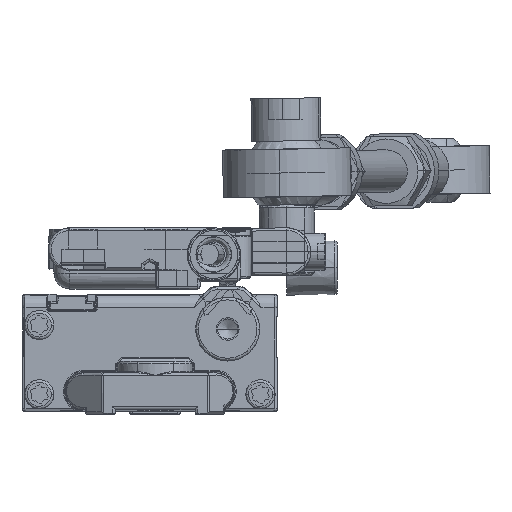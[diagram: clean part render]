
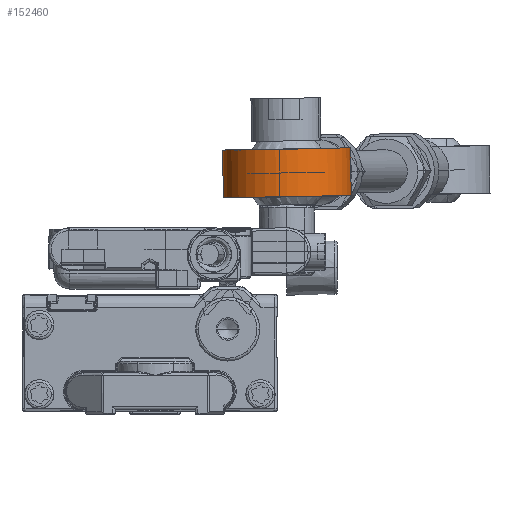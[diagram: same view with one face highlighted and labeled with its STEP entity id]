
A CAD part, left-side view. The second image highlights one B-rep face of the part: STEP entity #152460.
In plain terms, the highlighted cylindrical face has radius 12 mm (diameter 24 mm), a partial arc.
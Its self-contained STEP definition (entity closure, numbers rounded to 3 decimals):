
#151400=CARTESIAN_POINT('',(-150.,-3.,0.));
#151410=DIRECTION('',(0.,-1.,0.));
#151420=DIRECTION('',(0.,0.,1.));
#151430=AXIS2_PLACEMENT_3D('',#151400,#151410,#151420);
#151440=CYLINDRICAL_SURFACE('',#151430,12.);
#151450=CARTESIAN_POINT('',(-133.5,0.,
0.));
#151460=DIRECTION('',(1.,0.,0.));
#151470=DIRECTION('',(0.,0.,-1.));
#151480=AXIS2_PLACEMENT_3D('',#151450,#151460,#151470);
#151490=CYLINDRICAL_SURFACE('',#151480,6.25);
#151500=CARTESIAN_POINT('',(-139.756,0.,6.25)
);
#151510=CARTESIAN_POINT('',(-139.756,0.427,6.25));
#151520=CARTESIAN_POINT('',(-139.729,0.852,
6.206));
#151530=CARTESIAN_POINT('',(-139.678,1.267,
6.12));
#151540=CARTESIAN_POINT('',(-139.627,1.681,
6.034));
#151550=CARTESIAN_POINT('',(-139.553,2.085,
5.907));
#151560=CARTESIAN_POINT('',(-139.463,2.468,
5.742));
#151570=CARTESIAN_POINT('',(-139.373,2.851,
5.578));
#151580=CARTESIAN_POINT('',(-139.268,3.216,
5.375));
#151590=CARTESIAN_POINT('',(-139.156,3.558,
5.139));
#151600=CARTESIAN_POINT('',(-139.044,3.899,
4.902));
#151610=CARTESIAN_POINT('',(-138.926,4.215,
4.633));
#151620=CARTESIAN_POINT('',(-138.811,4.5,4.337));
#151630=B_SPLINE_CURVE_WITH_KNOTS('',3,(#151500,#151510,#151520,#151530,
#151540,#151550,#151560,#151570,#151580,#151590,#151600,#151610,#151620)
,.UNSPECIFIED.,.F.,.F.,(4,3,3,3,4),(0.,1.279,2.559,
3.844,5.13),.UNSPECIFIED.);
#151640=SURFACE_CURVE('',#151630,(#151490,#151440),.CURVE_3D.);
#151650=CARTESIAN_POINT('',(-139.756,0.,6.25)
);
#151660=VERTEX_POINT('',#151650);
#151670=CARTESIAN_POINT('',(-138.811,4.5,4.337));
#151680=VERTEX_POINT('',#151670);
#151690=EDGE_CURVE('',#151660,#151680,#151640,.T.);
#151700=ORIENTED_EDGE('',*,*,#151690,.T.);
#151710=CARTESIAN_POINT('',(-138.811,-4.5,
4.337));
#151720=CARTESIAN_POINT('',(-138.926,-4.216,
4.632));
#151730=CARTESIAN_POINT('',(-139.044,-3.9,
4.902));
#151740=CARTESIAN_POINT('',(-139.156,-3.558,
5.138));
#151750=CARTESIAN_POINT('',(-139.268,-3.217,
5.375));
#151760=CARTESIAN_POINT('',(-139.373,-2.851,
5.578));
#151770=CARTESIAN_POINT('',(-139.463,-2.468,
5.742));
#151780=CARTESIAN_POINT('',(-139.553,-2.085,
5.907));
#151790=CARTESIAN_POINT('',(-139.627,-1.681,
6.035));
#151800=CARTESIAN_POINT('',(-139.678,-1.267,
6.12));
#151810=CARTESIAN_POINT('',(-139.729,-0.852,
6.206));
#151820=CARTESIAN_POINT('',(-139.756,-0.426,6.25));
#151830=CARTESIAN_POINT('',(-139.756,0.,6.25)
);
#151840=B_SPLINE_CURVE_WITH_KNOTS('',3,(#151710,#151720,#151730,#151740,
#151750,#151760,#151770,#151780,#151790,#151800,#151810,#151820,#151830)
,.UNSPECIFIED.,.F.,.F.,(4,3,3,3,4),(0.,1.285,2.572
,3.851,5.13),.UNSPECIFIED.);
#151850=SURFACE_CURVE('',#151840,(#151490,#151440),.CURVE_3D.);
#151860=CARTESIAN_POINT('',(-138.811,-4.5,
4.337));
#151870=VERTEX_POINT('',#151860);
#151880=EDGE_CURVE('',#151870,#151660,#151850,.T.);
#151890=ORIENTED_EDGE('',*,*,#151880,.T.);
#151900=CARTESIAN_POINT('',(-150.,-4.5,0.));
#151910=DIRECTION('',(0.,-1.,0.));
#151920=DIRECTION('',(0.,0.,1.));
#151930=AXIS2_PLACEMENT_3D('',#151900,#151910,#151920);
#151940=CIRCLE('',#151930,12.);
#151950=CARTESIAN_POINT('',(-138.811,-4.5,
-4.337));
#151960=VERTEX_POINT('',#151950);
#151970=EDGE_CURVE('',#151870,#151960,#151940,.T.);
#151980=ORIENTED_EDGE('',*,*,#151970,.F.);
#151990=CARTESIAN_POINT('',(-139.756,0.,-6.25
));
#152000=CARTESIAN_POINT('',(-139.756,-0.426,-6.25))
;
#152010=CARTESIAN_POINT('',(-139.729,-0.852,
-6.206));
#152020=CARTESIAN_POINT('',(-139.678,-1.267,
-6.12));
#152030=CARTESIAN_POINT('',(-139.627,-1.681,
-6.034));
#152040=CARTESIAN_POINT('',(-139.553,-2.084,
-5.907));
#152050=CARTESIAN_POINT('',(-139.463,-2.468,
-5.742));
#152060=CARTESIAN_POINT('',(-139.373,-2.853,
-5.577));
#152070=CARTESIAN_POINT('',(-139.268,-3.215,
-5.376));
#152080=CARTESIAN_POINT('',(-139.157,-3.555,
-5.14));
#152090=CARTESIAN_POINT('',(-139.045,-3.896,
-4.905));
#152100=CARTESIAN_POINT('',(-138.927,-4.213,
-4.635));
#152110=CARTESIAN_POINT('',(-138.811,-4.5,-4.337));
#152120=B_SPLINE_CURVE_WITH_KNOTS('',3,(#151990,#152000,#152010,#152020,
#152030,#152040,#152050,#152060,#152070,#152080,#152090,#152100,#152110)
,.UNSPECIFIED.,.F.,.F.,(4,3,3,3,4),(0.,1.279,2.559
,3.841,5.13),.UNSPECIFIED.);
#152130=SURFACE_CURVE('',#152120,(#151490,#151440),.CURVE_3D.);
#152140=CARTESIAN_POINT('',(-139.756,0.,-6.25))
;
#152150=VERTEX_POINT('',#152140);
#152160=EDGE_CURVE('',#152150,#151960,#152130,.T.);
#152170=ORIENTED_EDGE('',*,*,#152160,.T.);
#152180=CARTESIAN_POINT('',(-138.811,4.5,-4.337));
#152190=CARTESIAN_POINT('',(-138.927,4.213,
-4.635));
#152200=CARTESIAN_POINT('',(-139.045,3.896,
-4.904));
#152210=CARTESIAN_POINT('',(-139.156,3.558,
-5.138));
#152220=CARTESIAN_POINT('',(-139.267,3.221,
-5.372));
#152230=CARTESIAN_POINT('',(-139.372,2.856,
-5.575));
#152240=CARTESIAN_POINT('',(-139.463,2.47,
-5.741));
#152250=CARTESIAN_POINT('',(-139.553,2.084,
-5.907));
#152260=CARTESIAN_POINT('',(-139.628,1.679,
-6.035));
#152270=CARTESIAN_POINT('',(-139.678,1.265,
-6.121));
#152280=CARTESIAN_POINT('',(-139.729,0.851,
-6.206));
#152290=CARTESIAN_POINT('',(-139.756,0.426,-6.25));
#152300=CARTESIAN_POINT('',(-139.756,0.,-6.25
));
#152310=B_SPLINE_CURVE_WITH_KNOTS('',3,(#152180,#152190,#152200,#152210,
#152220,#152230,#152240,#152250,#152260,#152270,#152280,#152290,#152300)
,.UNSPECIFIED.,.F.,.F.,(4,3,3,3,4),(0.,1.286,2.569
,3.853,5.13),.UNSPECIFIED.);
#152320=SURFACE_CURVE('',#152310,(#151490,#151440),.CURVE_3D.);
#152330=CARTESIAN_POINT('',(-138.811,4.5,
-4.337));
#152340=VERTEX_POINT('',#152330);
#152350=EDGE_CURVE('',#152340,#152150,#152320,.T.);
#152360=ORIENTED_EDGE('',*,*,#152350,.T.);
#152370=CARTESIAN_POINT('',(-150.,4.5,0.));
#152380=DIRECTION('',(0.,-1.,0.));
#152390=DIRECTION('',(0.,0.,1.));
#152400=AXIS2_PLACEMENT_3D('',#152370,#152380,#152390);
#152410=CIRCLE('',#152400,12.);
#152420=EDGE_CURVE('',#151680,#152340,#152410,.T.);
#152430=ORIENTED_EDGE('',*,*,#152420,.T.);
#152440=EDGE_LOOP('',(#152430,#152360,#152170,#151980,#151890,#151700));
#152450=FACE_OUTER_BOUND('',#152440,.T.);
#152460=ADVANCED_FACE('',(#152450),#151440,.T.);
